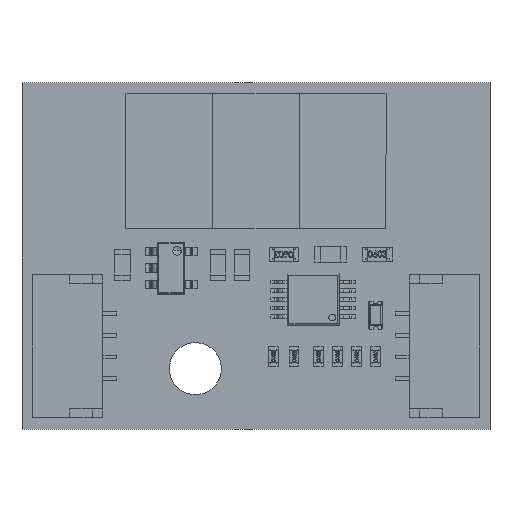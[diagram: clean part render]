
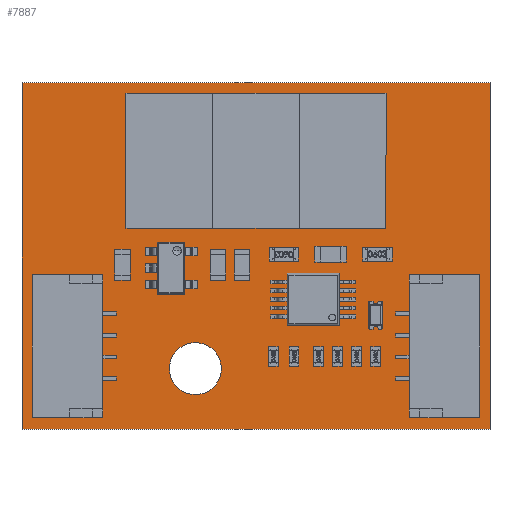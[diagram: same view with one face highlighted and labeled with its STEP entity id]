
A CAD part, top view. The second image highlights one B-rep face of the part: STEP entity #7887.
In plain terms, the highlighted planar face has unit normal (0, 0, 1).
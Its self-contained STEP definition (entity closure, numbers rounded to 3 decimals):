
#7722 = VERTEX_POINT('',#7723);
#7723 = CARTESIAN_POINT('',(-13.5,-10.,0.));
#7729 = EDGE_CURVE('',#7722,#7730,#7732,.T.);
#7730 = VERTEX_POINT('',#7731);
#7731 = CARTESIAN_POINT('',(-13.5,10.,0.));
#7732 = LINE('',#7733,#7734);
#7733 = CARTESIAN_POINT('',(-13.5,-10.,0.));
#7734 = VECTOR('',#7735,1.);
#7735 = DIRECTION('',(0.,1.,0.));
#7760 = EDGE_CURVE('',#7730,#7761,#7763,.T.);
#7761 = VERTEX_POINT('',#7762);
#7762 = CARTESIAN_POINT('',(13.5,10.,0.));
#7763 = LINE('',#7764,#7765);
#7764 = CARTESIAN_POINT('',(-13.5,10.,0.));
#7765 = VECTOR('',#7766,1.);
#7766 = DIRECTION('',(1.,0.,0.));
#7791 = EDGE_CURVE('',#7761,#7792,#7794,.T.);
#7792 = VERTEX_POINT('',#7793);
#7793 = CARTESIAN_POINT('',(13.5,-10.,0.));
#7794 = LINE('',#7795,#7796);
#7795 = CARTESIAN_POINT('',(13.5,10.,0.));
#7796 = VECTOR('',#7797,1.);
#7797 = DIRECTION('',(0.,-1.,0.));
#7822 = EDGE_CURVE('',#7792,#7722,#7823,.T.);
#7823 = LINE('',#7824,#7825);
#7824 = CARTESIAN_POINT('',(13.5,-10.,0.));
#7825 = VECTOR('',#7826,1.);
#7826 = DIRECTION('',(-1.,0.,0.));
#7846 = VERTEX_POINT('',#7847);
#7847 = CARTESIAN_POINT('',(-2.,-6.5,0.));
#7853 = EDGE_CURVE('',#7846,#7846,#7854,.T.);
#7854 = CIRCLE('',#7855,1.5);
#7855 = AXIS2_PLACEMENT_3D('',#7856,#7857,#7858);
#7856 = CARTESIAN_POINT('',(-3.5,-6.5,0.));
#7857 = DIRECTION('',(0.,0.,1.));
#7858 = DIRECTION('',(1.,0.,0.));
#7887 = ADVANCED_FACE('',(#7888,#7894),#7897,.T.);
#7888 = FACE_BOUND('',#7889,.F.);
#7889 = EDGE_LOOP('',(#7890,#7891,#7892,#7893));
#7890 = ORIENTED_EDGE('',*,*,#7729,.T.);
#7891 = ORIENTED_EDGE('',*,*,#7760,.T.);
#7892 = ORIENTED_EDGE('',*,*,#7791,.T.);
#7893 = ORIENTED_EDGE('',*,*,#7822,.T.);
#7894 = FACE_BOUND('',#7895,.T.);
#7895 = EDGE_LOOP('',(#7896));
#7896 = ORIENTED_EDGE('',*,*,#7853,.F.);
#7897 = PLANE('',#7898);
#7898 = AXIS2_PLACEMENT_3D('',#7899,#7900,#7901);
#7899 = CARTESIAN_POINT('',(-13.5,-10.,0.));
#7900 = DIRECTION('',(0.,0.,1.));
#7901 = DIRECTION('',(1.,0.,0.));
